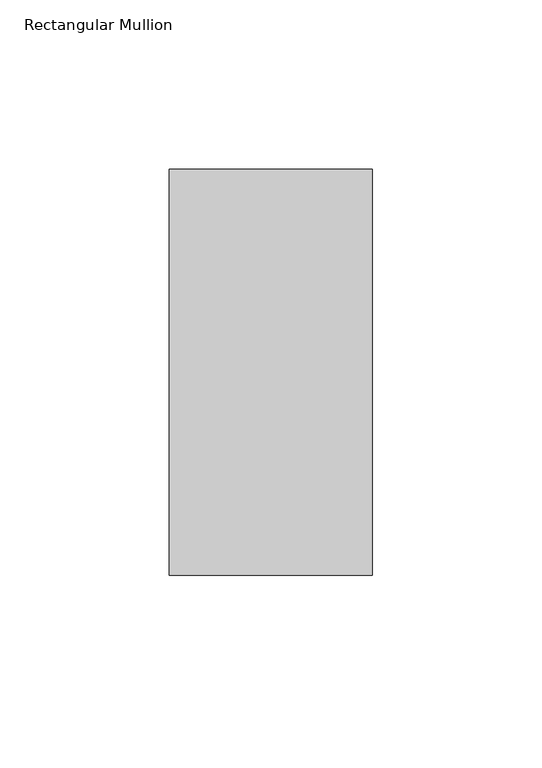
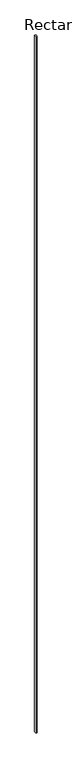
"""IFC4 building model written with IfcOpenShell, lengths in millimetres: member geometry, Rectangular Mullion : Terça."""

import ifcopenshell
import ifcopenshell.guid

model = None  # the IFC model being written
_history = None  # IfcOwnerHistory: only IFC2X3 demands one
_inside = {}  # id of a spatial element -> (the spatial element, [elements in it])
_under = {}  # id of a project, library or spatial element -> (it, [spatial elements below it])
_declared = {}  # id of a project -> (the project, [libraries it declares])
_typed = {}  # id of a type object -> (the type object, [elements of that type])
_made_of = {}  # id of a material, layer set ... -> (it, [elements and type objects made of it])


def new_model(schema):
    """Start an empty IFC model of exactly this schema.

    Asked for "IFC4X3", IfcOpenShell would pick the latest addendum, in which some entities
    have other attributes; the version numbers below select the first issue.
    IFC2X3 requires an IfcOwnerHistory on every rooted entity: one is made here for all.
    """
    global model, _history
    if schema == "IFC4X3":
        model = ifcopenshell.file(schema_version=(4, 3, 0, 0))
    else:
        model = ifcopenshell.file(schema=schema)
    _inside.clear()
    _under.clear()
    _declared.clear()
    _typed.clear()
    _made_of.clear()
    _history = None
    if model.schema == "IFC2X3":
        org = make("IfcOrganization", Name="unknown")
        user = make(
            "IfcPersonAndOrganization",
            ThePerson=make("IfcPerson", FamilyName="unknown"),
            TheOrganization=org,
        )
        app = make(
            "IfcApplication",
            ApplicationDeveloper=org,
            Version="unknown",
            ApplicationFullName="unknown",
            ApplicationIdentifier="unknown",
        )
        _history = make(
            "IfcOwnerHistory",
            OwningUser=user,
            OwningApplication=app,
            ChangeAction="ADDED",
            CreationDate=0,
        )
    return model


def make(cls, **values):
    """One entity of the class cls with the attributes given. An attribute that is None is left unset."""
    return model.create_entity(
        cls, **{name: value for name, value in values.items() if value is not None}
    )


def rooted(cls, **values):
    """An entity with a GlobalId (a new one), such as an element, a storey or a relation."""
    return make(cls, GlobalId=ifcopenshell.guid.new(), OwnerHistory=_history, **values)


def si_unit(unit_type, name, prefix=None):
    """IfcSIUnit, for example si_unit("LENGTHUNIT", "METRE", prefix="MILLI")."""
    return make("IfcSIUnit", UnitType=unit_type, Prefix=prefix, Name=name)


def assignment(units):
    """IfcUnitAssignment: the units of a project."""
    return None if units is None else make("IfcUnitAssignment", Units=units)


def point(xyz):
    """IfcCartesianPoint."""
    return None if xyz is None else make("IfcCartesianPoint", Coordinates=xyz)


def direction(xyz):
    """IfcDirection."""
    return None if xyz is None else make("IfcDirection", DirectionRatios=xyz)


def frame(location, z_axis=None, x_axis=None):
    """IfcAxis2Placement3D, a coordinate frame: its origin and axes. An axis left out is left unset."""
    return make(
        "IfcAxis2Placement3D",
        Location=point(location),
        Axis=direction(z_axis),
        RefDirection=direction(x_axis),
    )


def origin():
    """The frame at (0, 0, 0) with its axes left unset."""
    return frame((0.0, 0.0, 0.0))


def place(relative_to, where):
    """IfcLocalPlacement: puts the frame where relative to a parent placement (None: the world)."""
    return make(
        "IfcLocalPlacement", PlacementRelTo=relative_to, RelativePlacement=where
    )


def context(
    kind, dimensions, precision=None, world=None, true_north=None, identifier=None
):
    """IfcGeometricRepresentationContext, for example the 3D "Model" context."""
    return make(
        "IfcGeometricRepresentationContext",
        ContextIdentifier=identifier,
        ContextType=kind,
        CoordinateSpaceDimension=dimensions,
        Precision=precision,
        WorldCoordinateSystem=world,
        TrueNorth=true_north,
    )


def project(units=None, contexts=None):
    """IfcProject with its units and contexts."""
    return rooted(
        "IfcProject",
        Name="project",
        RepresentationContexts=contexts,
        UnitsInContext=assignment(units),
    )


def spatial(cls, under=None, at=None, **own):
    """A site, building, storey or space (cls), placed at a placement, below another one or the project."""
    s = rooted(cls, ObjectPlacement=at, **own)
    if under is not None:
        _under.setdefault(under.id(), (under, []))[1].append(s)
    return s


def polyline(points):
    """IfcPolyline through the points."""
    return make("IfcPolyline", Points=[point(p) for p in points])


def outline(outer, holes=None, kind="AREA"):
    """IfcArbitraryClosedProfileDef: a profile drawn as a closed curve; with holes, ...WithVoids."""
    if holes is None:
        return make("IfcArbitraryClosedProfileDef", ProfileType=kind, OuterCurve=outer)
    return make(
        "IfcArbitraryProfileDefWithVoids",
        ProfileType=kind,
        OuterCurve=outer,
        InnerCurves=holes,
    )


def extrude(swept, where, along, depth):
    """IfcExtrudedAreaSolid: the profile swept, set in the frame where, extruded along a direction by depth."""
    return make(
        "IfcExtrudedAreaSolid",
        SweptArea=swept,
        Position=where,
        ExtrudedDirection=direction(along),
        Depth=depth,
    )


def shape(context_of_items, identifier, shape_type, items):
    """IfcShapeRepresentation: the items that make up one representation, for example the "Body"."""
    return make(
        "IfcShapeRepresentation",
        ContextOfItems=context_of_items,
        RepresentationIdentifier=identifier,
        RepresentationType=shape_type,
        Items=items,
    )


def source(mapping_origin, context_of_items, identifier, shape_type, items):
    """IfcRepresentationMap: a shape defined once, which mapped items show again and again."""
    return make(
        "IfcRepresentationMap",
        MappingOrigin=mapping_origin,
        MappedRepresentation=shape(context_of_items, identifier, shape_type, items),
    )


def transform(
    local_origin,
    x_axis=None,
    y_axis=None,
    z_axis=None,
    scale=None,
    scale2=None,
    scale3=None,
    uniform=True,
):
    """IfcCartesianTransformationOperator3D, or its non-uniform kind. x_axis, y_axis, z_axis: its Axis1, 2, 3."""
    if uniform:
        return make(
            "IfcCartesianTransformationOperator3D",
            Axis1=direction(x_axis),
            Axis2=direction(y_axis),
            LocalOrigin=point(local_origin),
            Scale=scale,
            Axis3=direction(z_axis),
        )
    return make(
        "IfcCartesianTransformationOperator3DnonUniform",
        Axis1=direction(x_axis),
        Axis2=direction(y_axis),
        LocalOrigin=point(local_origin),
        Scale=scale,
        Axis3=direction(z_axis),
        Scale2=scale2,
        Scale3=scale3,
    )


def mapped(mapping_source, mapping_target):
    """IfcMappedItem: shows the shape of a source again, moved by a transform."""
    return make(
        "IfcMappedItem", MappingSource=mapping_source, MappingTarget=mapping_target
    )


def made_of(thing, what):
    """Note that an element or type object is made of a material, layer set ...; save() writes the relation."""
    if what is not None:
        _made_of.setdefault(what.id(), (what, []))[1].append(thing)
    return thing


def element(
    cls,
    number,
    at=None,
    inside=None,
    cuts=None,
    type_object=None,
    material=None,
    context=None,
    identifier="Body",
    shape_type=None,
    held_by="IfcProductDefinitionShape",
    body=None,
    shapes=None,
    **own,
):
    """One element of the class cls, such as IfcWall. Its Tag is "e" and its number.

    at: its placement. inside: the storey or other place that contains it. cuts: it is an
    opening in that element (IfcRelVoidsElement). A single representation is given by context,
    identifier, shape_type and body (its items); several are given by shapes. held_by: the class
    of the entity that holds the representations. save() writes the other relations.
    """
    e = rooted(cls, Tag="e%d" % number, ObjectPlacement=at, **own)
    if body is not None:
        shapes = [shape(context, identifier, shape_type, body)]
    if shapes is not None:
        e.Representation = make(held_by, Representations=shapes)
    if inside is not None:
        _inside.setdefault(inside.id(), (inside, []))[1].append(e)
    if cuts is not None:
        rooted(
            "IfcRelVoidsElement", RelatingBuildingElement=cuts, RelatedOpeningElement=e
        )
    if type_object is not None:
        _typed.setdefault(type_object.id(), (type_object, []))[1].append(e)
    return made_of(e, material)


def aggregate(whole, parts):
    """IfcRelAggregates: a whole, such as a stair, and the parts it consists of."""
    return rooted("IfcRelAggregates", RelatingObject=whole, RelatedObjects=parts)


def save(model, path):
    """Write the relations noted so far, then the file.

    IfcRelAggregates (storeys below a building ...), IfcRelContainedInSpatialStructure (elements
    in a storey), IfcRelDefinesByType, IfcRelAssociatesMaterial and IfcRelDeclares: one each for
    every whole, place, type object, material and project.
    """
    for whole, parts in _under.values():
        aggregate(whole, parts)
    for where, things in _inside.values():
        rooted(
            "IfcRelContainedInSpatialStructure",
            RelatedElements=things,
            RelatingStructure=where,
        )
    for kind, things in _typed.values():
        rooted("IfcRelDefinesByType", RelatedObjects=things, RelatingType=kind)
    for what, things in _made_of.values():
        rooted("IfcRelAssociatesMaterial", RelatedObjects=things, RelatingMaterial=what)
    for by, libraries in _declared.values():
        rooted("IfcRelDeclares", RelatingContext=by, RelatedDefinitions=libraries)
    model.write(path)


def rectangular_mullion_f6d95a8e(model_context):
    return source(origin(), model_context, "Body", "SweptSolid", [
        extrude(outline(polyline([(30.0, -120.0), (-30.0, -120.0), (-30.0, 0.0), (30.0, 0.0), (30.0, -120.0)])), frame((0.0, 0.0, -39475.0011106), z_axis=(0.0, 0.0, 1.0), x_axis=(1.0, 0.0, 0.0)), (0.0, 0.0, 1.0), 39475.0011106),
    ])


if __name__ == "__main__":
    model = new_model("IFC4")
    model_context = context("Model", 3, world=origin())
    ifc_project = project(units=[si_unit("LENGTHUNIT", "METRE", prefix="MILLI")], contexts=[model_context])
    site = spatial("IfcSite", under=ifc_project)
    building = spatial("IfcBuilding", under=site)
    placement = place(None, origin())
    rectangular_mullion_shape = rectangular_mullion_f6d95a8e(model_context)
    element("IfcMember", 1, ObjectType="Rectangular Mullion : Terça", at=placement, inside=building, context=model_context, shape_type="MappedRepresentation", body=[
        mapped(rectangular_mullion_shape, transform((0.0, 0.0, 0.0), x_axis=(1.0, 0.0, 0.0), y_axis=(0.0, 1.0, 0.0), z_axis=(0.0, 0.0, 1.0))),
    ])
    save(model, "model.ifc")
